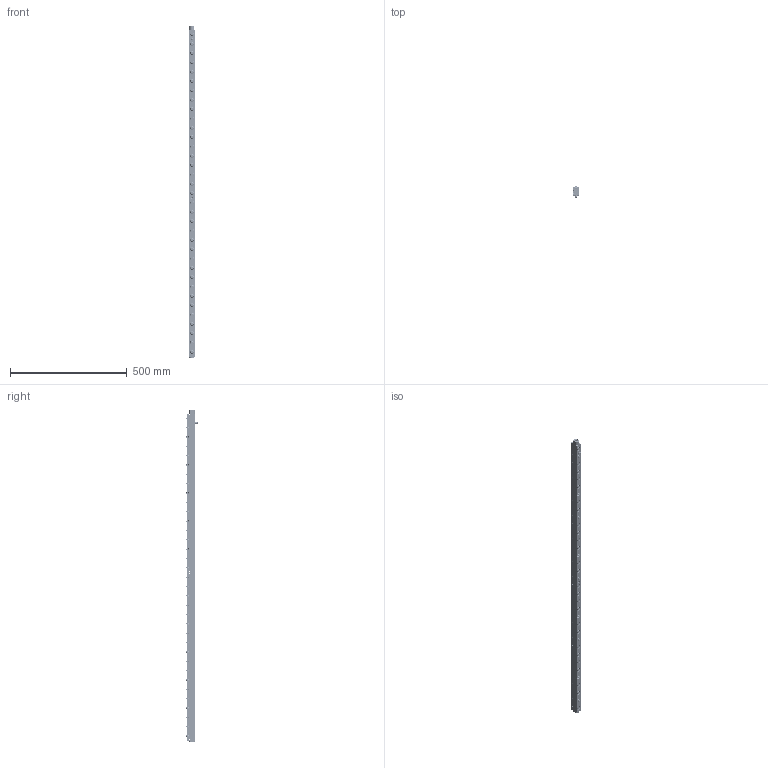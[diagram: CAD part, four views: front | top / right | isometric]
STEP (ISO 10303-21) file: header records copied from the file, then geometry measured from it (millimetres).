
FILE_DESCRIPTION(/* description */ ('EHR22-35'),/* implementation_level */ '2;1');
FILE_NAME(/* name */ 'S:\EASCN Vault\Designs\Standard Part\DIE LIFTERS\EHR\EHR- 3D step\EHR22 - 3D step complete serie\EHR22-35.stp',/* time_stamp */ '2019-10-28T16:52:51+08:00',/* author */ ('yue.yang'),/* organization */ (''),/* preprocessor_version */ 'ST-DEVELOPER v17',/* originating_system */ 'Autodesk Inventor 2019',/* authorisation */ '');
FILE_SCHEMA (('AUTOMOTIVE_DESIGN { 1 0 10303 214 3 1 1 }'));
Products named in the file (2): EHR22-35; EHR22-35_Substitute_1
Assembly tree (1 placements, depth 2):
  EHR22-35
    EHR22-35_Substitute_1
Bounding box: 21.8 x 48.05 x 1422 mm (x, y, z)
Volume: 873594.2 mm3; surface area: 358943.3 mm2
Topology: 123 solids, 123 shells, 1973 faces, 5561 edges, 3863 vertices
Faces by surface type: cylinder 684, plane 474, cone 420, torus 323, sphere 72
Full cylindrical faces by diameter (mm): 2.459 x16, 3 x9, 3.2 x8, 4 x20, 5 x105, 6 x45, 7.5 x2, 8.566 x1, 10 x11, 11 x35, 12.5 x70, 13.4 x35, 13.8 x35, 15.95 x70, 16 x70
Entity records: 72048 total; most frequent: CARTESIAN_POINT 16006, DIRECTION 12504, ORIENTED_EDGE 11000, AXIS2_PLACEMENT_3D 5559, EDGE_CURVE 5500, VERTEX_POINT 3863, CIRCLE 3583, EDGE_LOOP 2335
